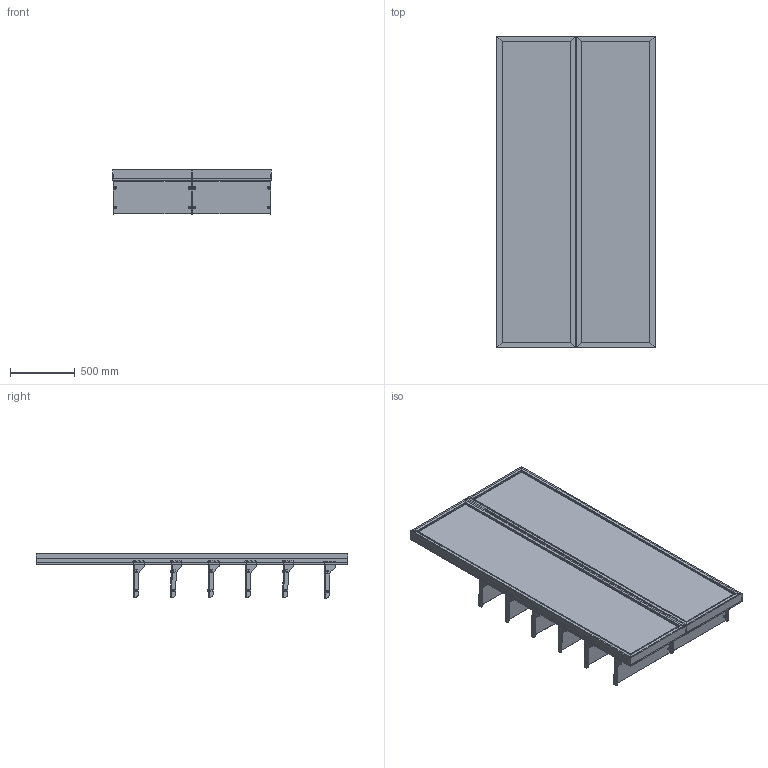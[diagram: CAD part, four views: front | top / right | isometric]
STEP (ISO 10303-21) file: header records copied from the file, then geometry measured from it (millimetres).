
FILE_DESCRIPTION (( 'STEP AP203' ), '1' );
FILE_NAME ('2m Double Narrow Clinic Retail Wall - Glass Shelving.STEP', '2026-03-30T13:27:56', ( '' ), ( '' ), 'SwSTEP 2.0', 'SolidWorks 2025', '' );
FILE_SCHEMA (( 'CONFIG_CONTROL_DESIGN' ));
Length unit declared in the file: millimetre
Products named in the file (12): 0001-31-114.STEP; Narrow Illuminated Beauty Merchandising Display - Glass Shelving_Assem7; 0001-31-123.STEP; 0001-31-124.STEP; 0000-31-113.STEP; 0001-31-SA29.STEP; 0001-31-SA28 - 610W Glass Shelf_Assem5; 0001-31-GA01 - 610W Slotted Upright; 0001-31-115.STEP; 0001-31-SA30.STEP; 0001-31-SA28 - 610W Glass Shelf.STEP; 2m Double Narrow Clinic Retail Wall - Glass Shelving
Assembly tree (31 placements, depth 6):
  2m Double Narrow Clinic Retail Wall - Glass Shelving
    Narrow Illuminated Beauty Merchandising Display - Glass Shelving_Assem7  x2
      0001-31-GA01 - 610W Slotted Upright
      0001-31-SA28 - 610W Glass Shelf_Assem5
        0001-31-SA28 - 610W Glass Shelf.STEP
          0001-31-SA29.STEP
            0000-31-113.STEP
            0001-31-114.STEP  x2
          0001-31-SA30.STEP
            0000-31-113.STEP
            0001-31-114.STEP  x2
          0001-31-115.STEP
          0001-31-123.STEP  x8
          0001-31-124.STEP  x4
Bounding box: 1219.5 x 2400 x 340.44 mm (x, y, z)
Volume: 28262446.7 mm3; surface area: 20350446.4 mm2
Topology: 240 solids, 240 shells, 4548 faces, 11496 edges, 7376 vertices
Faces by surface type: plane 2940, cylinder 1416, cone 192
Entity records: 19981 total; most frequent: CARTESIAN_POINT 3559, ORIENTED_EDGE 3282, DIRECTION 2715, EDGE_CURVE 1641, LINE 1471, VECTOR 1471, VERTEX_POINT 1082, AXIS2_PLACEMENT_3D 622
